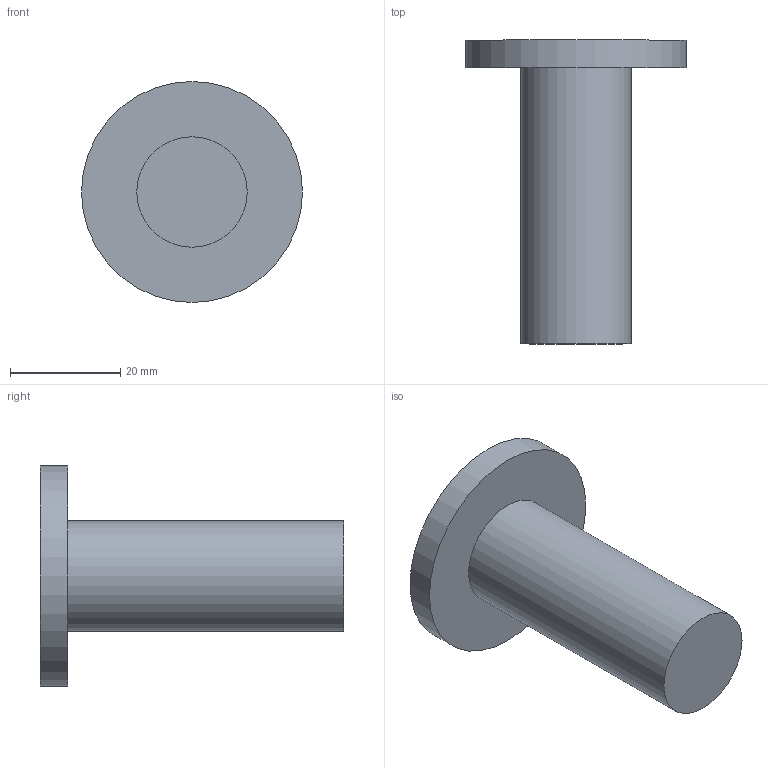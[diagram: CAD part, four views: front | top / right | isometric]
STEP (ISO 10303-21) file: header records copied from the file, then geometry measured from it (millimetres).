
FILE_DESCRIPTION(/* description */ (''),/* implementation_level */ '2;1');
FILE_NAME(/* name */ 'waleczek I.step',/* time_stamp */ '2026-02-28T15:35:39+01:00',/* author */ (''),/* organization */ (''),/* preprocessor_version */ 'ST-DEVELOPER v20.1',/* originating_system */ 'Autodesk Translation Framework v14.24.0.0',/* authorisation */ '');
FILE_SCHEMA (('AUTOMOTIVE_DESIGN { 1 0 10303 214 3 1 1 }'));
Length unit declared in the file: millimetre
Products named in the file (1): waleczek
Bounding box: 40 x 55 x 40 mm (x, y, z)
Volume: 21991.1 mm3; surface area: 6283.2 mm2
Topology: 1 solids, 1 shells, 5 faces, 6 edges, 4 vertices
Faces by surface type: plane 3, cylinder 2
Full cylindrical faces by diameter (mm): 20 x1, 40 x1
Entity records: 137 total; most frequent: DIRECTION 22, CARTESIAN_POINT 16, ORIENTED_EDGE 12, AXIS2_PLACEMENT_3D 10, EDGE_LOOP 6, EDGE_CURVE 6, FACE_OUTER_BOUND 5, ADVANCED_FACE 5
